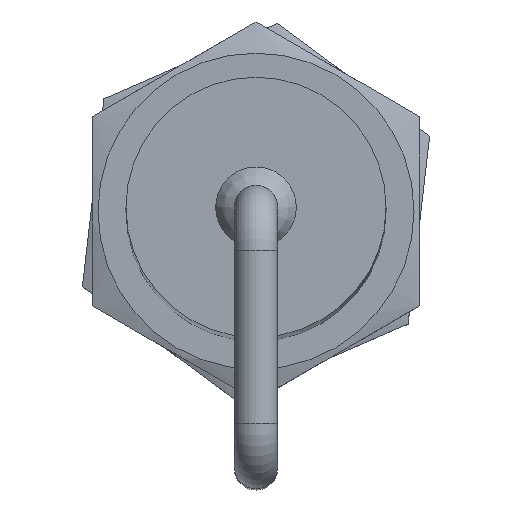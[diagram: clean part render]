
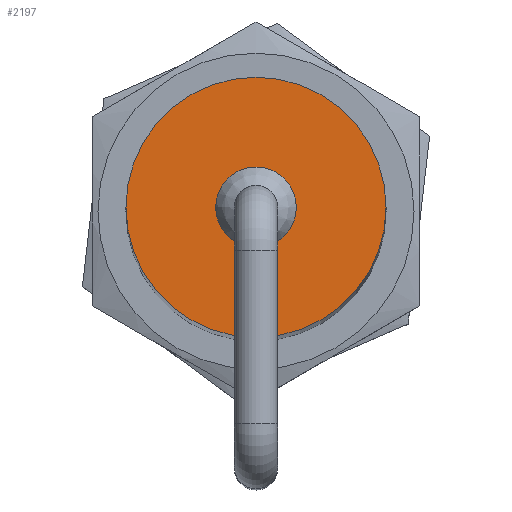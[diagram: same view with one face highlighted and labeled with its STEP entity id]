
A CAD part, top view. The second image highlights one B-rep face of the part: STEP entity #2197.
In plain terms, the highlighted planar face has unit normal (0, 0, 1).
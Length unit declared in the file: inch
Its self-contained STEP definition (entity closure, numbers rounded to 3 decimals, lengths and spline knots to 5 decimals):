
#220=FACE_BOUND('',#508,.T.);
#256=PLANE('',#2537);
#371=FACE_OUTER_BOUND('',#507,.T.);
#507=EDGE_LOOP('',(#1821));
#508=EDGE_LOOP('',(#1822));
#774=CIRCLE('',#2523,0.11628);
#779=CIRCLE('',#2536,0.375);
#955=VERTEX_POINT('',#5696);
#979=VERTEX_POINT('',#12222);
#1222=EDGE_CURVE('',#955,#955,#774,.T.);
#1265=EDGE_CURVE('',#979,#979,#779,.T.);
#1821=ORIENTED_EDGE('',*,*,#1265,.T.);
#1822=ORIENTED_EDGE('',*,*,#1222,.T.);
#2197=ADVANCED_FACE('',(#371,#220),#256,.T.);
#2523=AXIS2_PLACEMENT_3D('',#5698,#2903,#2904);
#2536=AXIS2_PLACEMENT_3D('',#12223,#2938,#2939);
#2537=AXIS2_PLACEMENT_3D('',#12225,#2941,#2942);
#2903=DIRECTION('center_axis',(0.,0.,
-1.));
#2904=DIRECTION('ref_axis',(1.,0.,0.));
#2938=DIRECTION('center_axis',(0.,0.,1.));
#2939=DIRECTION('ref_axis',(1.,0.,0.));
#2941=DIRECTION('center_axis',(0.,0.,1.));
#2942=DIRECTION('ref_axis',(1.,0.,0.));
#5696=CARTESIAN_POINT('',(-0.11628,0.,7.25));
#5698=CARTESIAN_POINT('Origin',(0.,0.,
7.25));
#12222=CARTESIAN_POINT('',(-0.375,0.,7.25));
#12223=CARTESIAN_POINT('Origin',(0.,0.,7.25));
#12225=CARTESIAN_POINT('Origin',(0.,0.,7.25));
